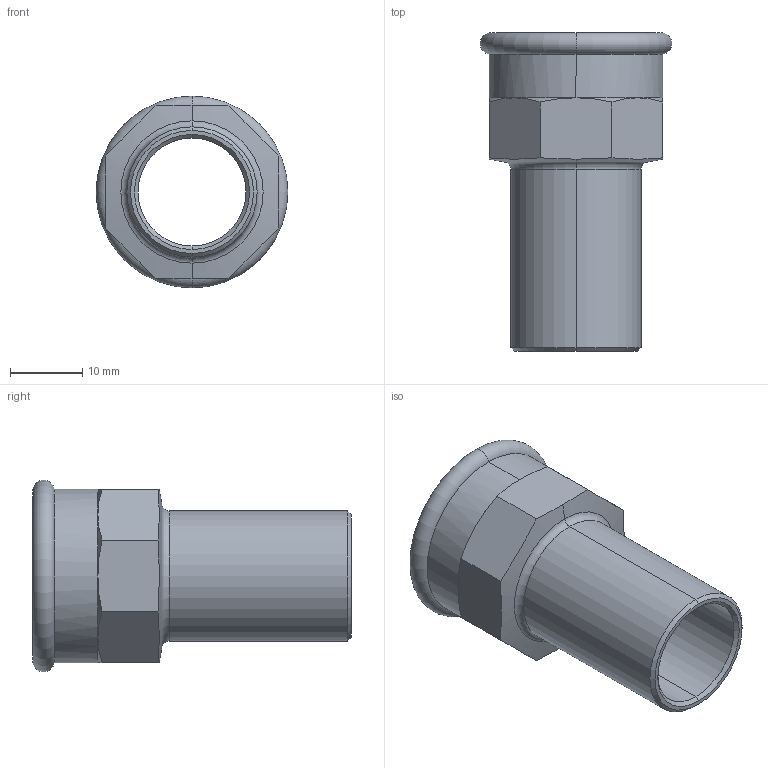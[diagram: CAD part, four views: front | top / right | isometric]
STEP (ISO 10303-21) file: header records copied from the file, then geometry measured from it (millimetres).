
FILE_DESCRIPTION (( 'STEP AP203' ), '1' );
FILE_NAME ('SP4281G Ø18 1-2.STEP', '2017-04-26T09:13:30', ( '' ), ( '' ), 'SwSTEP 2.0', 'SolidWorks 2016', '' );
FILE_SCHEMA (( 'CONFIG_CONTROL_DESIGN' ));
Length unit declared in the file: millimetre
Products named in the file (1): SP4281G Ø18 1-2
Bounding box: 26.5 x 44 x 26.5 mm (x, y, z)
Volume: 5914.2 mm3; surface area: 5672.6 mm2
Topology: 1 solids, 1 shells, 39 faces, 86 edges, 50 vertices
Faces by surface type: cone 16, plane 11, cylinder 8, torus 4
Entity records: 1207 total; most frequent: CARTESIAN_POINT 294, DIRECTION 176, ORIENTED_EDGE 172, EDGE_CURVE 86, AXIS2_PLACEMENT_3D 76, VERTEX_POINT 50, EDGE_LOOP 42, FACE_OUTER_BOUND 39
